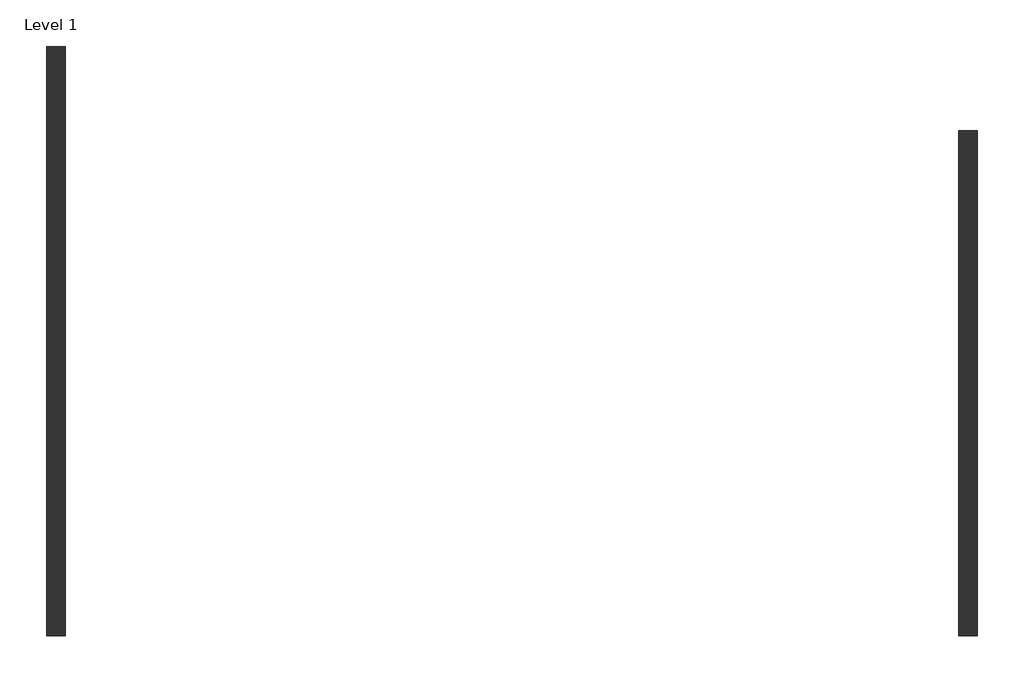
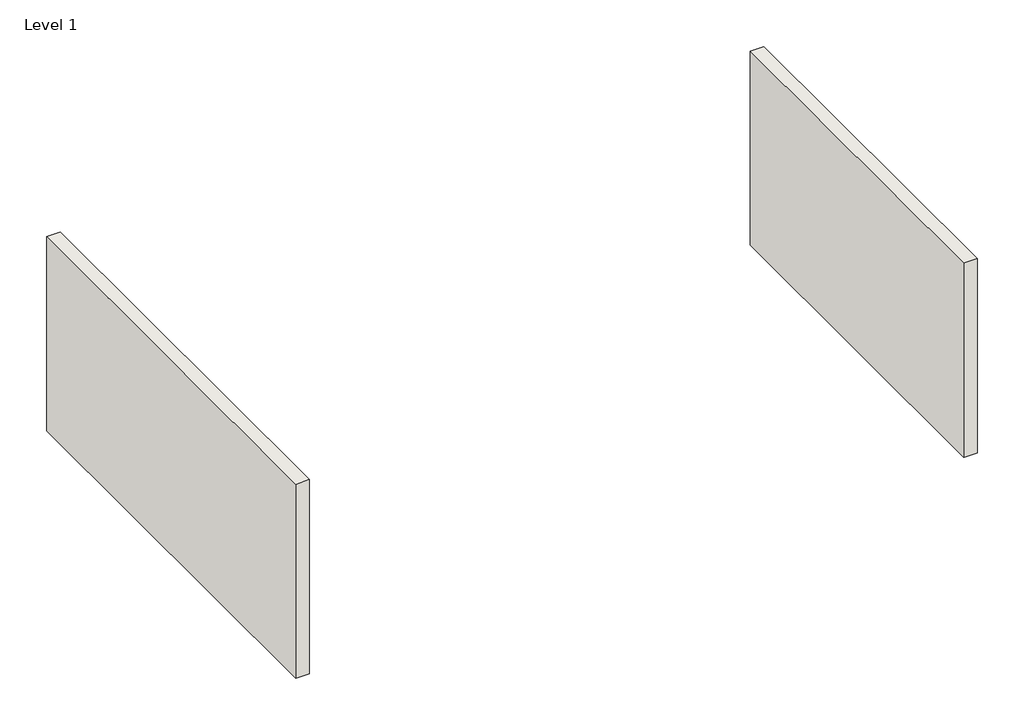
# One storey: 2 walls.
"""IFC4 building model written with IfcOpenShell, lengths in millimetres."""

from ifc_helpers import new_model, si_unit, origin, origin_with_axes, place, context, project, spatial, polyline, outline, extrude, element, save

model = new_model("IFC4")

# Units and contexts
model_context = context("Model", 3, world=origin())
ifc_project = project(units=[si_unit("LENGTHUNIT", "METRE", prefix="MILLI")], contexts=[model_context])

# Site, building, storey
site = spatial("IfcSite", under=ifc_project)
building = spatial("IfcBuilding", under=site)
storey = spatial("IfcBuildingStorey", under=building, Name="Level 1", Elevation=0.0)

# Walls
placement = place(None, origin())
element("IfcWall", 1, ObjectType="Generic - 8\"", at=placement, inside=storey, context=model_context, shape_type="SweptSolid", body=[
    extrude(outline(polyline([(-13221.262017, 4504.8405087), (-13221.262017, 10905.6405087), (-13018.062017, 10905.6405087), (-13018.062017, 4504.8405087), (-13221.262017, 4504.8405087)])), origin_with_axes(), (0.0, 0.0, 1.0), 3048.0),
])
element("IfcWall", 2, ObjectType="Generic - 8\"", at=placement, inside=storey, context=model_context, shape_type="SweptSolid", body=[
    extrude(outline(polyline([(-3315.262017, 4504.8405087), (-3315.262017, 9991.2405087), (-3112.062017, 9991.2405087), (-3112.062017, 4504.8405087), (-3315.262017, 4504.8405087)])), origin_with_axes(), (0.0, 0.0, 1.0), 3048.0),
])

save(model, "model.ifc")
